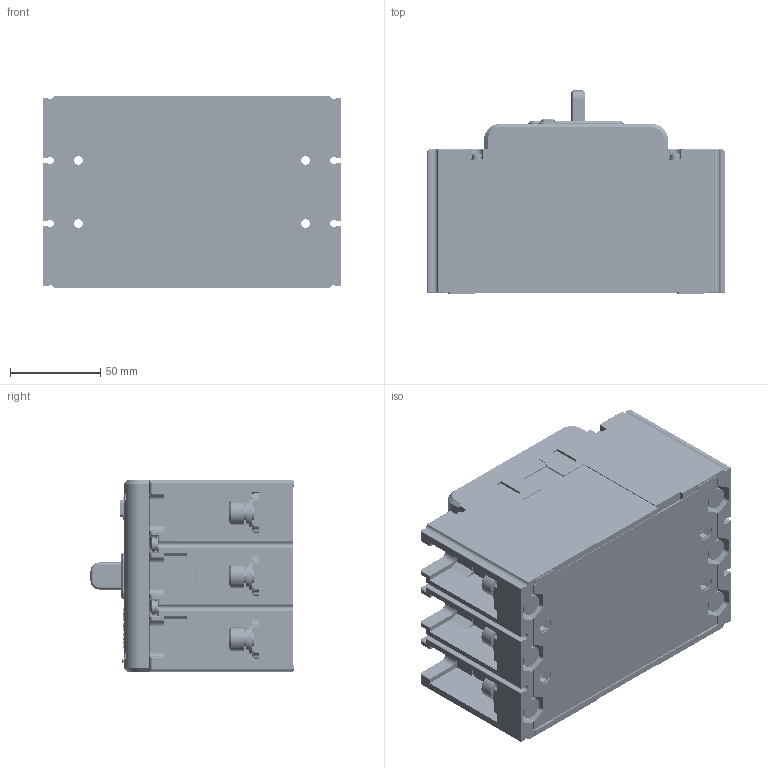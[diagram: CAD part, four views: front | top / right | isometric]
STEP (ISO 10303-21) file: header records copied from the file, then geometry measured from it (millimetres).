
FILE_DESCRIPTION((''),'2;1');
FILE_NAME('2256023100_ASM','2017-12-19T',('yan.shen'),(''),'PRO/ENGINEER BY PARAMETRIC TECHNOLOGY CORPORATION, 2015440','PRO/ENGINEER BY PARAMETRIC TECHNOLOGY CORPORATION, 2015440','');
FILE_SCHEMA(('CONFIG_CONTROL_DESIGN'));
Products named in the file (56): JZ-5DLX_024_270; GB_T809-M3X12; GB_T809-M4X12; 5024027000_ASM; 8510024900; 5420038400_ASM; 5420038500_ASM; 5551086700_ASM; 8505024100; 8510025000; 5420038600_ASM; 5420038700_ASM; 5551086800_ASM; 8510025100; 5420038800_ASM; 5420038900_ASM; 5551086900_ASM; 5551087000_ASM; 5551087100_ASM; 5295004000_ASM; 8551033100; 5551076600_ASM; 6760011900_ASM; 8751002100; 8300048900; 8750029700; MG-5DLX_315_444; GB_T809-M3X8; 5315044400_ASM; 8315058000; 8282018100; 8253003500; 7010100305R01_GB_T823_M3X10; 7090300201_GB_T93_3; GB_T97_4_3; 5850007700_ASM; 8253063200; 8322007000; 5315044500_ASM; GB_T9074_4-M3X30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
Assembly tree (95 placements, depth 8):
  2256023100_ASM
    6760011900_ASM
      5024027000_ASM
        JZ-5DLX_024_270
        GB_T809-M3X12  x4
        GB_T809-M4X12  x4
      5295004000_ASM
        5551087100_ASM
          5551086700_ASM
            5420038500_ASM
              5420038400_ASM
                8510024900
          5551086800_ASM
            8505024100
            5420038700_ASM
              5420038600_ASM
                8510025000
          5551086900_ASM
            5420038900_ASM
              5420038800_ASM
                8510025100
          5551087000_ASM
      5551076600_ASM  x3
        8551033100
    8751002100  x3
    8300048900  x2
    8750029700  x3
    5315044500_ASM
      5315044400_ASM
        MG-5DLX_315_444
        GB_T809-M3X8  x4
      8315058000
      8282018100
      8253003500
      5850007700_ASM  x4
        7010100305R01_GB_T823_M3X10
        7090300201_GB_T93_3
        GB_T97_4_3
      8253063200
      8322007000
    GB_T9074_4-M3X30  x4
    7030100437_GB_T9074_4_M4X30  x4
    8742102700
    5253022400_ASM
      8253057300
      8865077900_AF0
      8865078000_AF0
    5850004100_AF0_ASM
      GB_T70_1-M8X20
      7090200704_GB_T97_1_8
      7090370701K_GB_T93_8
    5850004100_AF1_ASM
      GB_T70_1-M8X20
      7090200704_GB_T97_1_8
      7090370701K_GB_T93_8
    5850004100_AF2_ASM
      GB_T70_1-M8X20
      7090200704_GB_T97_1_8
      7090370701K_GB_T93_8
    5850004100_AF3_ASM
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Bounding box: 165 x 112.61 x 107 mm (x, y, z)
Volume: 542147 mm3; surface area: 365708.4 mm2
Topology: 81 solids, 123 shells, 5811 faces, 15065 edges, 9634 vertices
Faces by surface type: plane 3052, cylinder 1912, torus 231, cone 228, extrusion 188, bspline 118, sphere 82
Entity records: 165995 total; most frequent: CARTESIAN_POINT 43257, ORIENTED_EDGE 25580, DIRECTION 25163, EDGE_CURVE 12820, VECTOR 8525, LINE 8337, AXIS2_PLACEMENT_3D 8319, VERTEX_POINT 8217
